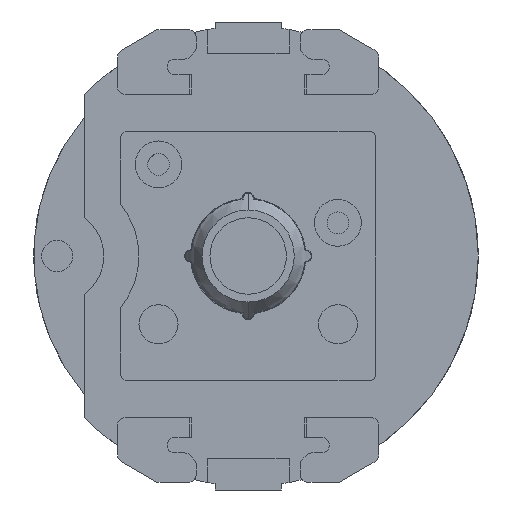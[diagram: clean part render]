
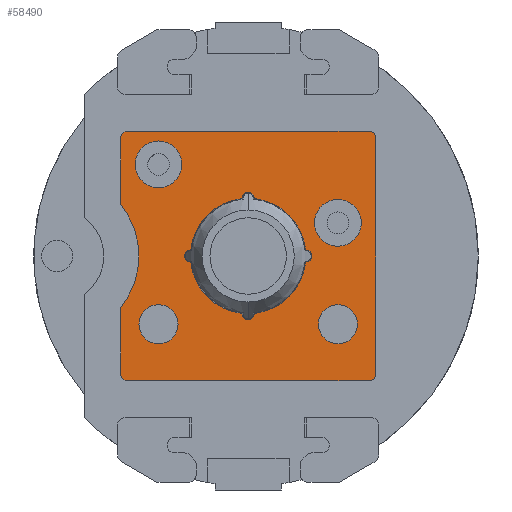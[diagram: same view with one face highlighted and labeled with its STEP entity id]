
A CAD part, front view. The second image highlights one B-rep face of the part: STEP entity #58490.
In plain terms, the highlighted planar face has unit normal (0, -1, 0).
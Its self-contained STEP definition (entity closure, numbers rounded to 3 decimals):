
#36850=CARTESIAN_POINT('',(-3.27,0.08,3.03));
#36860=VERTEX_POINT('',#36850);
#36890=CARTESIAN_POINT('',(-3.27,0.08,3.03));
#36900=DIRECTION('',(0.,0.,-1.));
#36910=VECTOR('',#36900,1.);
#36920=LINE('',#36890,#36910);
#36930=CARTESIAN_POINT('',(-3.27,0.08,1.324));
#36940=VERTEX_POINT('',#36930);
#36950=EDGE_CURVE('',#36860,#36940,#36920,.T.);
#37110=CARTESIAN_POINT('',(-3.27,0.08,-1.324));
#37120=DIRECTION('',(0.,0.,-1.));
#37130=VECTOR('',#37120,1.);
#37140=LINE('',#37110,#37130);
#37150=CARTESIAN_POINT('',(-3.27,0.08,-1.324));
#37160=VERTEX_POINT('',#37150);
#37170=CARTESIAN_POINT('',(-3.27,0.08,-3.03));
#37180=VERTEX_POINT('',#37170);
#37190=EDGE_CURVE('',#37160,#37180,#37140,.T.);
#37600=CARTESIAN_POINT('',(-4.9,0.08,0.));
#37610=DIRECTION('',(-0.,1.,0.));
#37620=DIRECTION('',(0.776,0.,0.63));
#37630=AXIS2_PLACEMENT_3D('',#37600,#37610,#37620);
#37640=CIRCLE('',#37630,2.1);
#37650=EDGE_CURVE('',#36940,#37160,#37640,.T.);
#37810=CARTESIAN_POINT('',(-3.1,0.08,3.2));
#37820=VERTEX_POINT('',#37810);
#37850=CARTESIAN_POINT('',(-3.1,0.08,3.03));
#37860=DIRECTION('',(0.,-1.,0.));
#37870=DIRECTION('',(0.,0.,1.));
#37880=AXIS2_PLACEMENT_3D('',#37850,#37860,#37870);
#37890=CIRCLE('',#37880,0.17);
#37900=EDGE_CURVE('',#37820,#36860,#37890,.T.);
#49570=CARTESIAN_POINT('',(-0.15,0.08,1.472));
#49580=VERTEX_POINT('',#49570);
#49610=CARTESIAN_POINT('',(0.,0.08,1.48));
#49620=DIRECTION('',(0.,1.,0.));
#49630=DIRECTION('',(-0.999,0.,-0.051));
#49640=AXIS2_PLACEMENT_3D('',#49610,#49620,#49630);
#49650=CIRCLE('',#49640,0.15);
#49660=CARTESIAN_POINT('',(0.15,0.08,1.472));
#49670=VERTEX_POINT('',#49660);
#49680=EDGE_CURVE('',#49580,#49670,#49650,.T.);
#50340=CARTESIAN_POINT('',(-1.472,0.08,0.15));
#50350=VERTEX_POINT('',#50340);
#50400=CARTESIAN_POINT('',(0.,0.08,0.));
#50410=DIRECTION('',(0.,1.,0.));
#50420=DIRECTION('',(-0.995,0.,0.101));
#50430=AXIS2_PLACEMENT_3D('',#50400,#50410,#50420);
#50440=CIRCLE('',#50430,1.48);
#50450=EDGE_CURVE('',#50350,#49580,#50440,.T.);
#50640=CARTESIAN_POINT('',(0.,0.08,0.));
#50650=DIRECTION('',(-0.,1.,0.));
#50660=DIRECTION('',(0.101,0.,0.995));
#50670=AXIS2_PLACEMENT_3D('',#50640,#50650,#50660);
#50680=CIRCLE('',#50670,1.48);
#50690=CARTESIAN_POINT('',(1.472,0.08,
0.15));
#50700=VERTEX_POINT('',#50690);
#50710=EDGE_CURVE('',#49670,#50700,#50680,.T.);
#51060=CARTESIAN_POINT('',(1.472,0.08,
-0.15));
#51070=VERTEX_POINT('',#51060);
#51120=CARTESIAN_POINT('',(0.,0.08,0.));
#51130=DIRECTION('',(0.,1.,0.));
#51140=DIRECTION('',(0.995,0.,-0.101));
#51150=AXIS2_PLACEMENT_3D('',#51120,#51130,#51140);
#51160=CIRCLE('',#51150,1.48);
#51170=CARTESIAN_POINT('',(0.15,0.08,
-1.472));
#51180=VERTEX_POINT('',#51170);
#51190=EDGE_CURVE('',#51070,#51180,#51160,.T.);
#51540=CARTESIAN_POINT('',(-0.15,0.08,-1.472));
#51550=VERTEX_POINT('',#51540);
#51600=CARTESIAN_POINT('',(0.,0.08,0.));
#51610=DIRECTION('',(0.,1.,0.));
#51620=DIRECTION('',(-0.101,0.,-0.995));
#51630=AXIS2_PLACEMENT_3D('',#51600,#51610,#51620);
#51640=CIRCLE('',#51630,1.48);
#51650=CARTESIAN_POINT('',(-1.472,0.08,
-0.15));
#51660=VERTEX_POINT('',#51650);
#51670=EDGE_CURVE('',#51550,#51660,#51640,.T.);
#51990=CARTESIAN_POINT('',(3.1,0.08,-3.2));
#52000=VERTEX_POINT('',#51990);
#52080=CARTESIAN_POINT('',(-3.1,0.08,-3.2));
#52090=VERTEX_POINT('',#52080);
#52120=CARTESIAN_POINT('',(3.1,0.08,-3.2));
#52130=DIRECTION('',(-1.,0.,0.));
#52140=VECTOR('',#52130,1.);
#52150=LINE('',#52120,#52140);
#52160=EDGE_CURVE('',#52000,#52090,#52150,.T.);
#52270=CARTESIAN_POINT('',(-3.1,0.08,-3.03));
#52280=DIRECTION('',(0.,-1.,0.));
#52290=DIRECTION('',(-1.,0.,0.));
#52300=AXIS2_PLACEMENT_3D('',#52270,#52280,#52290);
#52310=CIRCLE('',#52300,0.17);
#52320=EDGE_CURVE('',#37180,#52090,#52310,.T.);
#52690=CARTESIAN_POINT('',(-2.3,0.08,-1.25));
#52700=VERTEX_POINT('',#52690);
#52780=CARTESIAN_POINT('',(-2.3,0.08,-2.25));
#52790=VERTEX_POINT('',#52780);
#52820=CARTESIAN_POINT('',(-2.3,0.08,-1.75));
#52830=DIRECTION('',(0.,1.,0.));
#52840=DIRECTION('',(0.,0.,1.));
#52850=AXIS2_PLACEMENT_3D('',#52820,#52830,#52840);
#52860=CIRCLE('',#52850,0.5);
#52870=EDGE_CURVE('',#52790,#52700,#52860,.T.);
#53220=CARTESIAN_POINT('',(2.3,0.08,-1.25));
#53230=VERTEX_POINT('',#53220);
#53260=CARTESIAN_POINT('',(2.3,0.08,-1.75));
#53270=DIRECTION('',(0.,1.,0.));
#53280=DIRECTION('',(0.,0.,1.));
#53290=AXIS2_PLACEMENT_3D('',#53260,#53270,#53280);
#53300=CIRCLE('',#53290,0.5);
#53310=CARTESIAN_POINT('',(2.3,0.08,-2.25));
#53320=VERTEX_POINT('',#53310);
#53330=EDGE_CURVE('',#53230,#53320,#53300,.T.);
#54540=CARTESIAN_POINT('',(2.3,0.08,0.25));
#54550=VERTEX_POINT('',#54540);
#54630=CARTESIAN_POINT('',(2.3,0.08,1.45));
#54640=VERTEX_POINT('',#54630);
#54670=CARTESIAN_POINT('',(2.3,0.08,0.85));
#54680=DIRECTION('',(-0.,1.,0.));
#54690=DIRECTION('',(0.,0.,1.));
#54700=AXIS2_PLACEMENT_3D('',#54670,#54680,#54690);
#54710=CIRCLE('',#54700,0.6);
#54720=EDGE_CURVE('',#54640,#54550,#54710,.T.);
#56100=CARTESIAN_POINT('',(-2.3,0.08,1.75));
#56110=VERTEX_POINT('',#56100);
#56140=CARTESIAN_POINT('',(-2.3,0.08,2.35));
#56150=DIRECTION('',(0.,1.,0.));
#56160=DIRECTION('',(0.,0.,-1.));
#56170=AXIS2_PLACEMENT_3D('',#56140,#56150,#56160);
#56180=CIRCLE('',#56170,0.6);
#56190=CARTESIAN_POINT('',(-2.3,0.08,2.95));
#56200=VERTEX_POINT('',#56190);
#56210=EDGE_CURVE('',#56110,#56200,#56180,.T.);
#56390=CARTESIAN_POINT('',(3.1,0.08,-3.03));
#56400=DIRECTION('',(0.,-1.,-0.));
#56410=DIRECTION('',(0.,0.,-1.));
#56420=AXIS2_PLACEMENT_3D('',#56390,#56400,#56410);
#56430=CIRCLE('',#56420,0.17);
#56440=CARTESIAN_POINT('',(3.27,0.08,-3.03));
#56450=VERTEX_POINT('',#56440);
#56460=EDGE_CURVE('',#52000,#56450,#56430,.T.);
#56640=CARTESIAN_POINT('',(3.27,0.08,-3.03));
#56650=DIRECTION('',(0.,0.,1.));
#56660=VECTOR('',#56650,1.);
#56670=LINE('',#56640,#56660);
#56680=CARTESIAN_POINT('',(3.27,0.08,3.03));
#56690=VERTEX_POINT('',#56680);
#56700=EDGE_CURVE('',#56450,#56690,#56670,.T.);
#57050=CARTESIAN_POINT('',(3.1,0.08,3.03));
#57060=DIRECTION('',(0.,-1.,0.));
#57070=DIRECTION('',(1.,0.,0.));
#57080=AXIS2_PLACEMENT_3D('',#57050,#57060,#57070);
#57090=CIRCLE('',#57080,0.17);
#57100=CARTESIAN_POINT('',(3.1,0.08,3.2));
#57110=VERTEX_POINT('',#57100);
#57120=EDGE_CURVE('',#56690,#57110,#57090,.T.);
#57300=CARTESIAN_POINT('',(-3.1,0.08,3.2));
#57310=DIRECTION('',(1.,0.,0.));
#57320=VECTOR('',#57310,1.);
#57330=LINE('',#57300,#57320);
#57340=EDGE_CURVE('',#37820,#57110,#57330,.T.);
#57840=CARTESIAN_POINT('',(-3.8,0.08,0.));
#57850=DIRECTION('',(0.,-1.,0.));
#57860=DIRECTION('',(0.,0.,-1.));
#57870=AXIS2_PLACEMENT_3D('',#57840,#57850,#57860);
#57880=PLANE('',#57870);
#57890=ORIENTED_EDGE('',*,*,#37900,.T.);
#57900=ORIENTED_EDGE('',*,*,#57340,.F.);
#57910=ORIENTED_EDGE('',*,*,#57120,.T.);
#57920=ORIENTED_EDGE('',*,*,#56700,.T.);
#57930=ORIENTED_EDGE('',*,*,#56460,.T.);
#57940=ORIENTED_EDGE('',*,*,#52160,.F.);
#57950=ORIENTED_EDGE('',*,*,#52320,.T.);
#57960=ORIENTED_EDGE('',*,*,#37190,.T.);
#57970=ORIENTED_EDGE('',*,*,#37650,.T.);
#57980=ORIENTED_EDGE('',*,*,#36950,.T.);
#57990=EDGE_LOOP('',(#57980,#57970,#57960,#57950,#57940,#57930,#57920,
#57910,#57900,#57890));
#58000=FACE_OUTER_BOUND('',#57990,.T.);
#58010=CARTESIAN_POINT('',(0.,0.08,-1.48));
#58020=DIRECTION('',(-0.,1.,0.));
#58030=DIRECTION('',(0.999,0.,0.051));
#58040=AXIS2_PLACEMENT_3D('',#58010,#58020,#58030);
#58050=CIRCLE('',#58040,0.15);
#58060=EDGE_CURVE('',#51180,#51550,#58050,.T.);
#58070=ORIENTED_EDGE('',*,*,#58060,.T.);
#58080=ORIENTED_EDGE('',*,*,#51190,.T.);
#58090=CARTESIAN_POINT('',(1.48,0.08,0.));
#58100=DIRECTION('',(0.,1.,0.));
#58110=DIRECTION('',(-0.051,0.,0.999));
#58120=AXIS2_PLACEMENT_3D('',#58090,#58100,#58110);
#58130=CIRCLE('',#58120,0.15);
#58140=EDGE_CURVE('',#50700,#51070,#58130,.T.);
#58150=ORIENTED_EDGE('',*,*,#58140,.T.);
#58160=ORIENTED_EDGE('',*,*,#50710,.T.);
#58170=ORIENTED_EDGE('',*,*,#49680,.T.);
#58180=ORIENTED_EDGE('',*,*,#50450,.T.);
#58190=CARTESIAN_POINT('',(-1.48,0.08,0.));
#58200=DIRECTION('',(0.,1.,0.));
#58210=DIRECTION('',(0.051,0.,-0.999));
#58220=AXIS2_PLACEMENT_3D('',#58190,#58200,#58210);
#58230=CIRCLE('',#58220,0.15);
#58240=EDGE_CURVE('',#51660,#50350,#58230,.T.);
#58250=ORIENTED_EDGE('',*,*,#58240,.T.);
#58260=ORIENTED_EDGE('',*,*,#51670,.T.);
#58270=EDGE_LOOP('',(#58260,#58250,#58180,#58170,#58160,#58150,#58080,
#58070));
#58280=FACE_BOUND('',#58270,.T.);
#58290=EDGE_CURVE('',#56200,#56110,#56180,.T.);
#58300=ORIENTED_EDGE('',*,*,#58290,.T.);
#58310=ORIENTED_EDGE('',*,*,#56210,.T.);
#58320=EDGE_LOOP('',(#58310,#58300));
#58330=FACE_BOUND('',#58320,.T.);
#58340=EDGE_CURVE('',#54550,#54640,#54710,.T.);
#58350=ORIENTED_EDGE('',*,*,#58340,.T.);
#58360=ORIENTED_EDGE('',*,*,#54720,.T.);
#58370=EDGE_LOOP('',(#58360,#58350));
#58380=FACE_BOUND('',#58370,.T.);
#58390=EDGE_CURVE('',#53320,#53230,#53300,.T.);
#58400=ORIENTED_EDGE('',*,*,#58390,.T.);
#58410=ORIENTED_EDGE('',*,*,#53330,.T.);
#58420=EDGE_LOOP('',(#58410,#58400));
#58430=FACE_BOUND('',#58420,.T.);
#58440=EDGE_CURVE('',#52700,#52790,#52860,.T.);
#58450=ORIENTED_EDGE('',*,*,#58440,.T.);
#58460=ORIENTED_EDGE('',*,*,#52870,.T.);
#58470=EDGE_LOOP('',(#58460,#58450));
#58480=FACE_BOUND('',#58470,.T.);
#58490=ADVANCED_FACE('',(#58000,#58280,#58330,#58380,#58430,#58480),
#57880,.T.);
